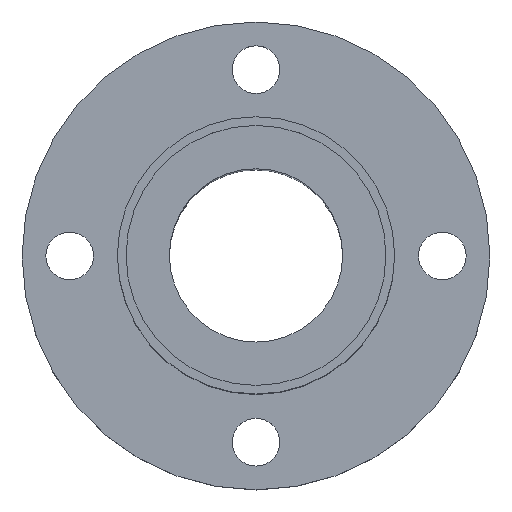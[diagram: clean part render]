
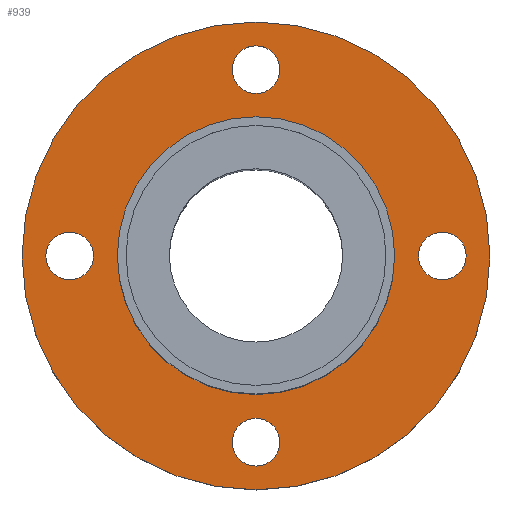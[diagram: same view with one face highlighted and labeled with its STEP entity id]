
A CAD part, top view. The second image highlights one B-rep face of the part: STEP entity #939.
In plain terms, the highlighted planar face has unit normal (0, 0, 1).
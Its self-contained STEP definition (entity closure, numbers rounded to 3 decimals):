
#49=CARTESIAN_POINT('',(-18.799,9.056,44.0));
#50=VERTEX_POINT('',#49);
#59=CARTESIAN_POINT('',(13.201,9.056,44.0));
#60=VERTEX_POINT('',#59);
#61=CARTESIAN_POINT('',(-2.799,9.056,44.0));
#62=DIRECTION('',(0.0,0.0,1.0));
#63=DIRECTION('',(-1.0,0.0,0.0));
#64=AXIS2_PLACEMENT_3D('',#61,#62,#63);
#65=CIRCLE('',#64,16.0);
#66=EDGE_CURVE('',#50,#60,#65,.T.);
#259=CARTESIAN_POINT('',(-29.799,9.056,44.0));
#260=VERTEX_POINT('',#259);
#269=CARTESIAN_POINT('',(24.201,9.056,44.0));
#270=VERTEX_POINT('',#269);
#271=CARTESIAN_POINT('',(-2.799,9.056,44.0));
#272=DIRECTION('',(0.0,0.0,-1.0));
#273=DIRECTION('',(-1.0,0.0,0.0));
#274=AXIS2_PLACEMENT_3D('',#271,#272,#273);
#275=CIRCLE('',#274,27.0);
#276=EDGE_CURVE('',#260,#270,#275,.T.);
#301=CARTESIAN_POINT('',(21.451,9.056,44.0));
#302=VERTEX_POINT('',#301);
#311=CARTESIAN_POINT('',(15.951,9.056,44.0));
#312=VERTEX_POINT('',#311);
#313=CARTESIAN_POINT('',(18.701,9.056,44.0));
#314=DIRECTION('',(0.0,0.0,-1.0));
#315=DIRECTION('',(1.0,0.0,0.0));
#316=AXIS2_PLACEMENT_3D('',#313,#314,#315);
#317=CIRCLE('',#316,2.75);
#318=EDGE_CURVE('',#312,#302,#317,.T.);
#385=CARTESIAN_POINT('',(-2.799,-15.194,44.0));
#386=VERTEX_POINT('',#385);
#395=CARTESIAN_POINT('',(-2.799,-9.694,44.0));
#396=VERTEX_POINT('',#395);
#397=CARTESIAN_POINT('',(-2.799,-12.444,44.0));
#398=DIRECTION('',(0.0,0.0,-1.0));
#399=DIRECTION('',(0.0,-1.0,0.0));
#400=AXIS2_PLACEMENT_3D('',#397,#398,#399);
#401=CIRCLE('',#400,2.75);
#402=EDGE_CURVE('',#396,#386,#401,.T.);
#469=CARTESIAN_POINT('',(-27.049,9.056,44.0));
#470=VERTEX_POINT('',#469);
#479=CARTESIAN_POINT('',(-21.549,9.056,44.0));
#480=VERTEX_POINT('',#479);
#481=CARTESIAN_POINT('',(-24.299,9.056,44.0));
#482=DIRECTION('',(0.0,0.0,-1.0));
#483=DIRECTION('',(-1.0,0.0,0.0));
#484=AXIS2_PLACEMENT_3D('',#481,#482,#483);
#485=CIRCLE('',#484,2.75);
#486=EDGE_CURVE('',#480,#470,#485,.T.);
#553=CARTESIAN_POINT('',(-2.799,33.306,44.0));
#554=VERTEX_POINT('',#553);
#563=CARTESIAN_POINT('',(-2.799,27.806,44.0));
#564=VERTEX_POINT('',#563);
#565=CARTESIAN_POINT('',(-2.799,30.556,44.0));
#566=DIRECTION('',(0.0,0.0,-1.0));
#567=DIRECTION('',(0.0,1.0,0.0));
#568=AXIS2_PLACEMENT_3D('',#565,#566,#567);
#569=CIRCLE('',#568,2.75);
#570=EDGE_CURVE('',#564,#554,#569,.T.);
#684=CARTESIAN_POINT('',(-2.799,30.556,44.0));
#685=DIRECTION('',(0.0,0.0,-1.0));
#686=DIRECTION('',(0.0,1.0,0.0));
#687=AXIS2_PLACEMENT_3D('',#684,#685,#686);
#688=CIRCLE('',#687,2.75);
#689=EDGE_CURVE('',#554,#564,#688,.T.);
#746=CARTESIAN_POINT('',(-24.299,9.056,44.0));
#747=DIRECTION('',(0.0,0.0,-1.0));
#748=DIRECTION('',(-1.0,0.0,0.0));
#749=AXIS2_PLACEMENT_3D('',#746,#747,#748);
#750=CIRCLE('',#749,2.75);
#751=EDGE_CURVE('',#470,#480,#750,.T.);
#808=CARTESIAN_POINT('',(-2.799,-12.444,44.0));
#809=DIRECTION('',(0.0,0.0,-1.0));
#810=DIRECTION('',(0.0,-1.0,0.0));
#811=AXIS2_PLACEMENT_3D('',#808,#809,#810);
#812=CIRCLE('',#811,2.75);
#813=EDGE_CURVE('',#386,#396,#812,.T.);
#870=CARTESIAN_POINT('',(18.701,9.056,44.0));
#871=DIRECTION('',(0.0,0.0,-1.0));
#872=DIRECTION('',(1.0,0.0,0.0));
#873=AXIS2_PLACEMENT_3D('',#870,#871,#872);
#874=CIRCLE('',#873,2.75);
#875=EDGE_CURVE('',#302,#312,#874,.T.);
#894=CARTESIAN_POINT('',(-2.799,9.056,44.0));
#895=DIRECTION('',(0.0,0.0,-1.0));
#896=DIRECTION('',(-1.0,0.0,0.0));
#897=AXIS2_PLACEMENT_3D('',#894,#895,#896);
#898=CIRCLE('',#897,27.0);
#899=EDGE_CURVE('',#270,#260,#898,.T.);
#904=CARTESIAN_POINT('',(-2.799,9.056,44.0));
#905=DIRECTION('',(0.0,0.0,-1.0));
#906=DIRECTION('',(-1.0,0.0,0.0));
#907=AXIS2_PLACEMENT_3D('',#904,#905,#906);
#908=PLANE('',#907);
#909=ORIENTED_EDGE('',*,*,#899,.F.);
#910=ORIENTED_EDGE('',*,*,#276,.F.);
#911=EDGE_LOOP('',(#909,#910));
#912=FACE_OUTER_BOUND('',#911,.T.);
#913=ORIENTED_EDGE('',*,*,#570,.T.);
#914=ORIENTED_EDGE('',*,*,#689,.T.);
#915=EDGE_LOOP('',(#913,#914));
#916=FACE_BOUND('',#915,.T.);
#917=ORIENTED_EDGE('',*,*,#486,.T.);
#918=ORIENTED_EDGE('',*,*,#751,.T.);
#919=EDGE_LOOP('',(#917,#918));
#920=FACE_BOUND('',#919,.T.);
#921=ORIENTED_EDGE('',*,*,#402,.T.);
#922=ORIENTED_EDGE('',*,*,#813,.T.);
#923=EDGE_LOOP('',(#921,#922));
#924=FACE_BOUND('',#923,.T.);
#925=ORIENTED_EDGE('',*,*,#318,.T.);
#926=ORIENTED_EDGE('',*,*,#875,.T.);
#927=EDGE_LOOP('',(#925,#926));
#928=FACE_BOUND('',#927,.T.);
#929=CARTESIAN_POINT('',(-2.799,9.056,44.0));
#930=DIRECTION('',(0.0,0.0,1.0));
#931=DIRECTION('',(-1.0,0.0,0.0));
#932=AXIS2_PLACEMENT_3D('',#929,#930,#931);
#933=CIRCLE('',#932,16.0);
#934=EDGE_CURVE('',#60,#50,#933,.T.);
#935=ORIENTED_EDGE('',*,*,#934,.F.);
#936=ORIENTED_EDGE('',*,*,#66,.F.);
#937=EDGE_LOOP('',(#935,#936));
#938=FACE_BOUND('',#937,.T.);
#939=ADVANCED_FACE('',(#912,#916,#920,#924,#928,#938),#908,.F.);
